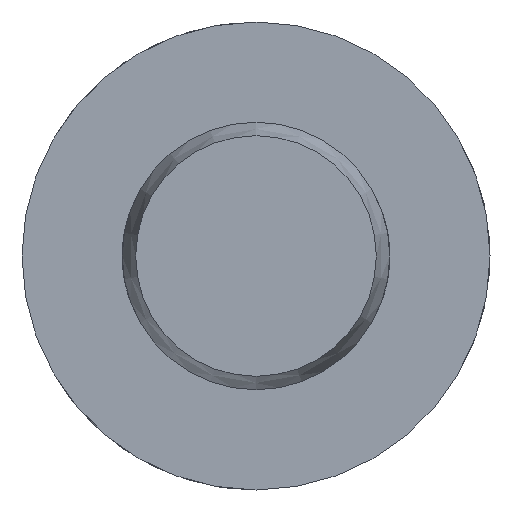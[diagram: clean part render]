
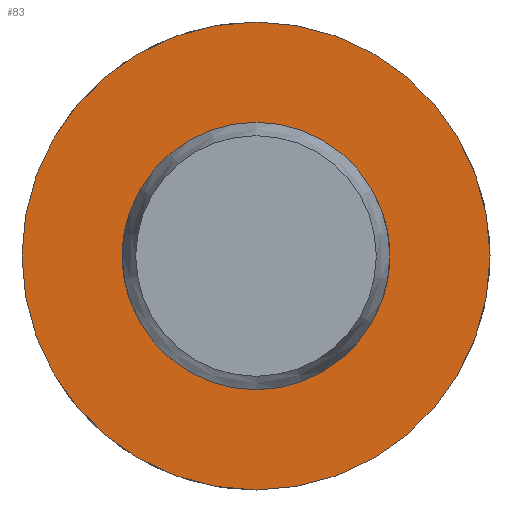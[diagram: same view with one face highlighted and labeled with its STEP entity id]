
A CAD part, left-side view. The second image highlights one B-rep face of the part: STEP entity #83.
In plain terms, the highlighted planar face has unit normal (-1, 0, 0).
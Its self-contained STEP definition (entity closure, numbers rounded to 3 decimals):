
#83 = ADVANCED_FACE( '', ( #128, #129 ), #130, .F. );
#128 = FACE_OUTER_BOUND( '', #204, .T. );
#129 = FACE_BOUND( '', #205, .T. );
#130 = PLANE( '', #206 );
#204 = EDGE_LOOP( '', ( #318 ) );
#205 = EDGE_LOOP( '', ( #319 ) );
#206 = AXIS2_PLACEMENT_3D( '', #320, #321, #322 );
#318 = ORIENTED_EDGE( '', *, *, #481, .F. );
#319 = ORIENTED_EDGE( '', *, *, #471, .T. );
#320 = CARTESIAN_POINT( '', ( 68.2, 4., 0. ) );
#321 = DIRECTION( '', ( 1., 0., 0. ) );
#322 = DIRECTION( '', ( 0., 0., -1. ) );
#471 = EDGE_CURVE( '', #541, #541, #542, .T. );
#481 = EDGE_CURVE( '', #559, #559, #560, .T. );
#541 = VERTEX_POINT( '', #726 );
#542 = CIRCLE( '', #727, 4. );
#559 = VERTEX_POINT( '', #861 );
#560 = CIRCLE( '', #862, 7. );
#726 = CARTESIAN_POINT( '', ( 68.2, 0., -4. ) );
#727 = AXIS2_PLACEMENT_3D( '', #923, #924, #925 );
#861 = CARTESIAN_POINT( '', ( 68.2, 0., -7. ) );
#862 = AXIS2_PLACEMENT_3D( '', #944, #945, #946 );
#923 = CARTESIAN_POINT( '', ( 68.2, 0., 0. ) );
#924 = DIRECTION( '', ( 1., 0., 0. ) );
#925 = DIRECTION( '', ( 0., 0., -1. ) );
#944 = CARTESIAN_POINT( '', ( 68.2, 0., 0. ) );
#945 = DIRECTION( '', ( 1., 0., 0. ) );
#946 = DIRECTION( '', ( 0., 0., -1. ) );
